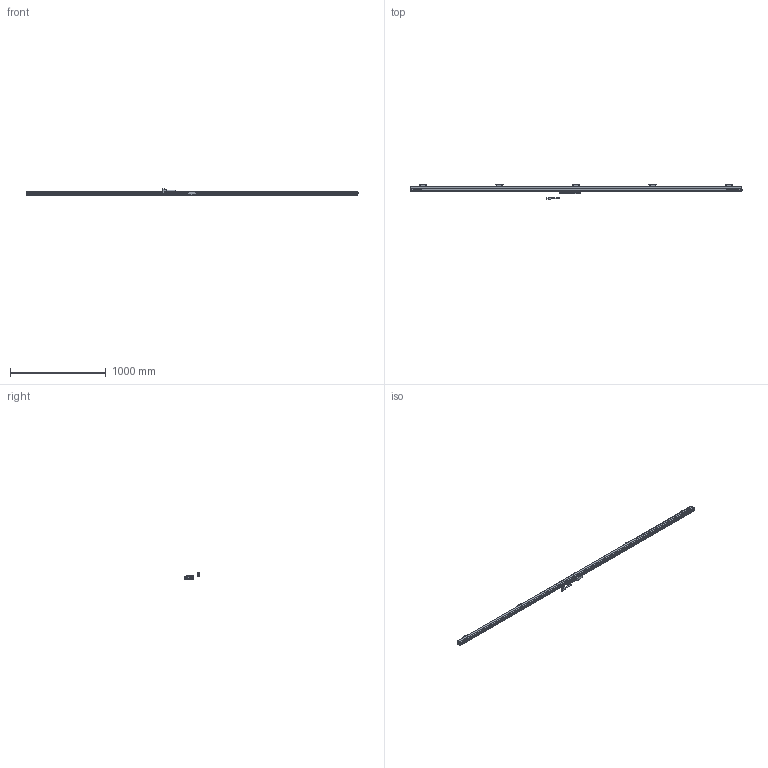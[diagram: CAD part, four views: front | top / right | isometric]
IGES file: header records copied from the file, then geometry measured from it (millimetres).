
Start section: Elysium IGES Interface
Global section: file name: 75H\\Utsu119s\kiyo_cad\data\3D\AT103\HP掲載用_201710\IGES\AT103_AT203-3250.igs; native system: Creo Elements/Direct Modeling 18.1B  29-Sep-2012; preprocessor: Creo Element/Direct IGES_3D V2.2; author: Unknown; organization: Unknown; date: 20180105.153809; units: millimetre
Bounding box: 3470 x 150.63 x 68 mm (x, y, z)
Volume: 5926185.3 mm3; surface area: 789732 mm2
Topology: 4 solids, 4 shells, 1401 faces, 3494 edges, 2171 vertices
Faces by surface type: bspline 1401
